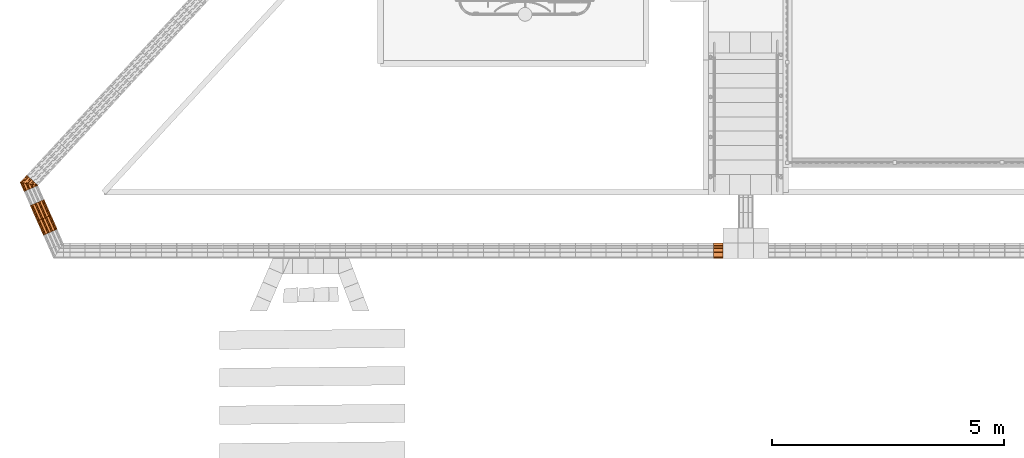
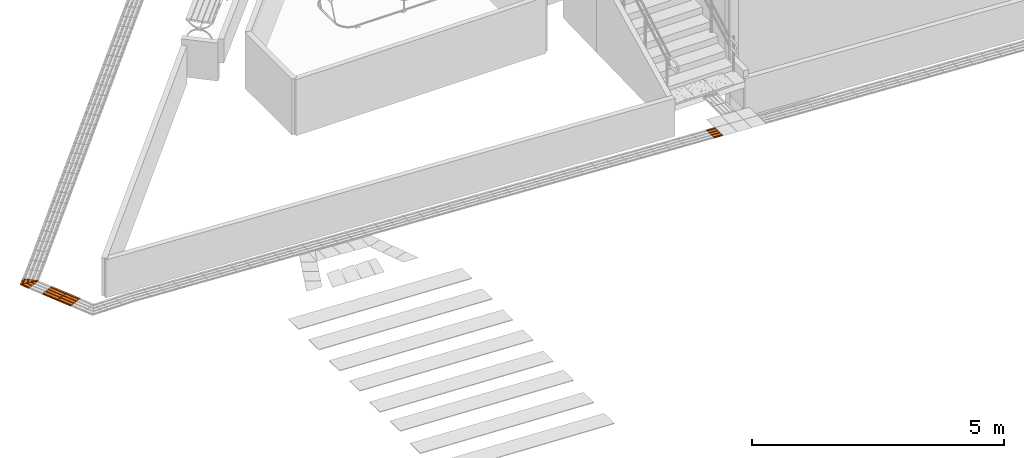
# One storey, part 216 of 237: 5 proxies.
"""IFC2X3 building model written with IfcOpenShell, lengths in millimetres."""

from ifc_helpers import new_model, entity, si_unit, converted_unit, derived_unit, money_unit, direction, frame, origin_with_axes, place, context, subcontext, project, spatial, open_shell, faceted_brep, surface_model, type_object, element, save


model = new_model("IFC2X3")

# Units and contexts
model_context = context("Model", 3, precision=0.01, world=origin_with_axes(), true_north=direction((0.0, 1.0)))
body_context = subcontext(model_context, "Body", "Model", "MODEL_VIEW")
ifc_project = project(units=[si_unit("LENGTHUNIT", "METRE", prefix="MILLI"), si_unit("AREAUNIT", "SQUARE_METRE"), si_unit("VOLUMEUNIT", "CUBIC_METRE"), converted_unit("PLANEANGLEUNIT", "DEGREE", entity("IfcPlaneAngleMeasure", 0.0174532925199), si_unit("PLANEANGLEUNIT", "RADIAN"), dimensions=[0, 0, 0, 0, 0, 0, 0]), money_unit("USD"), converted_unit("TIMEUNIT", "Year", entity("IfcTimeMeasure", 31556926.0), si_unit("TIMEUNIT", "SECOND"), dimensions=[0, 0, 1, 0, 0, 0, 0]), si_unit("MASSUNIT", "GRAM", prefix="KILO"), si_unit("THERMODYNAMICTEMPERATUREUNIT", "DEGREE_CELSIUS"), si_unit("LUMINOUSINTENSITYUNIT", "LUMEN"), si_unit("ENERGYUNIT", "JOULE", prefix="MEGA"), derived_unit("THERMALCONDUCTANCEUNIT", [(si_unit("POWERUNIT", "WATT"), 1), (si_unit("LENGTHUNIT", "METRE"), -1), (si_unit("THERMODYNAMICTEMPERATUREUNIT", "KELVIN"), -1)]), derived_unit("SPECIFICHEATCAPACITYUNIT", [(si_unit("ENERGYUNIT", "JOULE"), 1), (si_unit("MASSUNIT", "GRAM", prefix="KILO"), -1), (si_unit("THERMODYNAMICTEMPERATUREUNIT", "KELVIN"), -1)]), derived_unit("MASSDENSITYUNIT", [(si_unit("MASSUNIT", "GRAM", prefix="KILO"), 1), (si_unit("VOLUMEUNIT", "CUBIC_METRE"), -1)])], contexts=[model_context])

# Site, building, storey
site_placement = place(None, origin_with_axes())
site = spatial("IfcSite", under=ifc_project, at=site_placement, Name="Local", CompositionType="ELEMENT")
building_placement = place(site_placement, origin_with_axes())
building = spatial("IfcBuilding", under=site, at=building_placement, Name="Construção", CompositionType="ELEMENT")
storey_placement = place(building_placement, origin_with_axes())
storey = spatial("IfcBuildingStorey", under=building, at=storey_placement, Name="Pavimento Térreo", CompositionType="ELEMENT", Elevation=0.0)

# Proxies
building_element_proxy_type_1 = type_object("IfcBuildingElementProxyType", Name="Piso Direcional 27", PredefinedType="NOTDEFINED")
proxy_1_placement = place(storey_placement, frame((26239.7793685, 11529.8847147, -2385.08199458), z_axis=(0.0, 0.0, 1.0), x_axis=(-0.40058928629, 0.916257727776, 0.0)))
element("IfcBuildingElementProxy", 1, at=proxy_1_placement, inside=storey, type_object=building_element_proxy_type_1, Name="Objeto-0055", context=body_context, shape_type="SurfaceModel", body=[
    surface_model("IfcShellBasedSurfaceModel", [(0.0, -47.2583560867, 4.02852049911), (370.944327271, -47.2583560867, 4.02852049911), (370.944327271, -41.6651202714, 10.6951871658), (0.0, -41.6651202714, 10.6951871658)], [open_shell([[[0, 1, 2, 3]]])]),
    surface_model("IfcShellBasedSurfaceModel", [(370.944327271, -153.529836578, -9.30481283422), (370.944327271, 176.471076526, -9.30481283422), (370.944327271, 176.471076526, 4.02852049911), (370.944327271, 154.098133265, 4.02852049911), (370.944327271, 148.50489745, 10.6951871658), (370.944327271, 126.131954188, 10.6951871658), (370.944327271, 120.538718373, 4.02852049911), (370.944327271, 70.1995960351, 4.02852049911), (370.944327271, 64.6063602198, 10.6951871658), (370.944327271, 42.2334169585, 10.6951871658), (370.944327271, 36.6401811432, 4.02852049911), (370.944327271, -13.6989411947, 4.02852049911), (370.944327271, -19.2921770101, 10.6951871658), (370.944327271, -41.6651202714, 10.6951871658), (370.944327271, -47.2583560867, 4.02852049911), (370.944327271, -97.5974784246, 4.02852049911), (370.944327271, -103.19071424, 10.6951871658), (370.944327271, -125.563657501, 10.6951871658), (370.944327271, -131.156893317, 4.02852049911), (370.944327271, -153.529836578, 4.02852049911)], [open_shell([[[0, 1, 2, 3, 4, 5, 6, 7, 8, 9, 10, 11, 12, 13, 14, 15, 16, 17, 18, 19]]])]),
    surface_model("IfcShellBasedSurfaceModel", [(0.0, -19.2921770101, 10.6951871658), (370.944327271, -19.2921770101, 10.6951871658), (370.944327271, -13.6989411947, 4.02852049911), (0.0, -13.6989411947, 4.02852049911)], [open_shell([[[0, 1, 2, 3]]])]),
    surface_model("IfcShellBasedSurfaceModel", [(0.0, -103.19071424, 10.6951871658), (370.944327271, -103.19071424, 10.6951871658), (370.944327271, -97.5974784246, 4.02852049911), (0.0, -97.5974784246, 4.02852049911)], [open_shell([[[0, 1, 2, 3]]])]),
    surface_model("IfcShellBasedSurfaceModel", [(0.0, 64.6063602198, 10.6951871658), (370.944327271, 64.6063602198, 10.6951871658), (370.944327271, 70.1995960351, 4.02852049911), (0.0, 70.1995960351, 4.02852049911)], [open_shell([[[0, 1, 2, 3]]])]),
    surface_model("IfcShellBasedSurfaceModel", [(0.0, 36.6401811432, 4.02852049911), (370.944327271, 36.6401811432, 4.02852049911), (370.944327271, 42.2334169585, 10.6951871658), (0.0, 42.2334169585, 10.6951871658)], [open_shell([[[0, 1, 2, 3]]])]),
    surface_model("IfcShellBasedSurfaceModel", [(0.0, -131.156893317, 4.02852049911), (370.944327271, -131.156893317, 4.02852049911), (370.944327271, -125.563657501, 10.6951871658), (0.0, -125.563657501, 10.6951871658)], [open_shell([[[0, 1, 2, 3]]])]),
    surface_model("IfcShellBasedSurfaceModel", [(0.0, 176.471076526, 4.02852049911), (0.0, 154.098133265, 4.02852049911), (370.944327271, 154.098133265, 4.02852049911), (370.944327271, 176.471076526, 4.02852049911)], [open_shell([[[0, 1, 2, 3]]])]),
    surface_model("IfcShellBasedSurfaceModel", [(0.0, 120.538718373, 4.02852049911), (370.944327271, 120.538718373, 4.02852049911), (370.944327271, 126.131954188, 10.6951871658), (0.0, 126.131954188, 10.6951871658)], [open_shell([[[0, 1, 2, 3]]])]),
    surface_model("IfcShellBasedSurfaceModel", [(0.0, 148.50489745, 10.6951871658), (370.944327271, 148.50489745, 10.6951871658), (370.944327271, 154.098133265, 4.02852049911), (0.0, 154.098133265, 4.02852049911)], [open_shell([[[0, 1, 2, 3]]])]),
    surface_model("IfcShellBasedSurfaceModel", [(0.0, 36.6401811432, 4.02852049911), (0.0, -13.6989411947, 4.02852049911), (370.944327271, -13.6989411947, 4.02852049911), (370.944327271, 36.6401811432, 4.02852049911)], [open_shell([[[0, 1, 2, 3]]])]),
    surface_model("IfcShellBasedSurfaceModel", [(0.0, 120.538718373, 4.02852049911), (0.0, 70.1995960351, 4.02852049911), (370.944327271, 70.1995960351, 4.02852049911), (370.944327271, 120.538718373, 4.02852049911)], [open_shell([[[0, 1, 2, 3]]])]),
    surface_model("IfcShellBasedSurfaceModel", [(0.0, 148.50489745, 10.6951871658), (0.0, 126.131954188, 10.6951871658), (370.944327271, 126.131954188, 10.6951871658), (370.944327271, 148.50489745, 10.6951871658)], [open_shell([[[0, 1, 2, 3]]])]),
    surface_model("IfcShellBasedSurfaceModel", [(0.0, 120.538718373, 4.02852049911), (0.0, 126.131954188, 10.6951871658), (0.0, 148.50489745, 10.6951871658), (0.0, 154.098133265, 4.02852049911), (0.0, 176.471076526, 4.02852049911), (0.0, 176.471076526, -9.30481283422), (0.0, -153.529836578, -9.30481283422), (0.0, -153.529836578, 4.02852049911), (0.0, -131.156893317, 4.02852049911), (0.0, -125.563657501, 10.6951871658), (0.0, -103.19071424, 10.6951871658), (0.0, -97.5974784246, 4.02852049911), (0.0, -47.2583560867, 4.02852049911), (0.0, -41.6651202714, 10.6951871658), (0.0, -19.2921770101, 10.6951871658), (0.0, -13.6989411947, 4.02852049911), (0.0, 36.6401811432, 4.02852049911), (0.0, 42.2334169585, 10.6951871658), (0.0, 64.6063602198, 10.6951871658), (0.0, 70.1995960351, 4.02852049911)], [open_shell([[[0, 1, 2, 3, 4, 5, 6, 7, 8, 9, 10, 11, 12, 13, 14, 15, 16, 17, 18, 19]]])]),
    surface_model("IfcShellBasedSurfaceModel", [(370.944327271, -41.6651202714, 10.6951871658), (370.944327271, -19.2921770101, 10.6951871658), (0.0, -19.2921770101, 10.6951871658), (0.0, -41.6651202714, 10.6951871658)], [open_shell([[[0, 1, 2, 3]]])]),
    surface_model("IfcShellBasedSurfaceModel", [(0.0, -47.2583560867, 4.02852049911), (0.0, -97.5974784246, 4.02852049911), (370.944327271, -97.5974784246, 4.02852049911), (370.944327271, -47.2583560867, 4.02852049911)], [open_shell([[[0, 1, 2, 3]]])]),
    surface_model("IfcShellBasedSurfaceModel", [(370.944327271, 42.2334169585, 10.6951871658), (370.944327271, 64.6063602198, 10.6951871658), (0.0, 64.6063602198, 10.6951871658), (0.0, 42.2334169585, 10.6951871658)], [open_shell([[[0, 1, 2, 3]]])]),
    surface_model("IfcShellBasedSurfaceModel", [(370.944327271, -125.563657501, 10.6951871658), (370.944327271, -103.19071424, 10.6951871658), (0.0, -103.19071424, 10.6951871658), (0.0, -125.563657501, 10.6951871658)], [open_shell([[[0, 1, 2, 3]]])]),
    surface_model("IfcShellBasedSurfaceModel", [(370.944327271, 176.471076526, -9.30481283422), (0.0, 176.471076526, -9.30481283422), (0.0, 176.471076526, 4.02852049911), (370.944327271, 176.471076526, 4.02852049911)], [open_shell([[[0, 1, 2, 3]]])]),
    surface_model("IfcShellBasedSurfaceModel", [(370.944327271, -153.529836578, -9.30481283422), (0.0, -153.529836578, -9.30481283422), (0.0, 176.471076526, -9.30481283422), (370.944327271, 176.471076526, -9.30481283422)], [open_shell([[[0, 1, 2, 3]]])]),
    surface_model("IfcShellBasedSurfaceModel", [(370.944327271, -153.529836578, 4.02852049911), (370.944327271, -131.156893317, 4.02852049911), (0.0, -131.156893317, 4.02852049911), (0.0, -153.529836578, 4.02852049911)], [open_shell([[[0, 1, 2, 3]]])]),
    surface_model("IfcShellBasedSurfaceModel", [(0.0, -153.529836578, -9.30481283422), (370.944327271, -153.529836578, -9.30481283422), (370.944327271, -153.529836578, 4.02852049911), (0.0, -153.529836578, 4.02852049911)], [open_shell([[[0, 1, 2, 3]]])]),
])
proxy_2_placement = place(storey_placement, frame((26373.5318277, 11228.2070488, -2385.08199458), z_axis=(0.0, 0.0, 1.0), x_axis=(-0.40058928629, 0.916257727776, 0.0)))
element("IfcBuildingElementProxy", 2, at=proxy_2_placement, inside=storey, type_object=building_element_proxy_type_1, Name="Objeto-0055", context=body_context, shape_type="SurfaceModel", body=[
    surface_model("IfcShellBasedSurfaceModel", [(0.0, -47.4807003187, 4.02852049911), (330.0, -47.4807003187, 4.02852049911), (330.0, -41.8611490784, 10.6951871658), (0.0, -41.8611490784, 10.6951871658)], [open_shell([[[0, 1, 2, 3]]])]),
    surface_model("IfcShellBasedSurfaceModel", [(330.0, -154.252173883, -9.30481283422), (330.0, 177.301349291, -9.30481283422), (330.0, 177.301349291, 4.02852049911), (330.0, 154.82314433, 4.02852049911), (330.0, 149.20359309, 10.6951871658), (330.0, 126.725388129, 10.6951871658), (330.0, 121.105836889, 4.02852049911), (330.0, 70.5298757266, 4.02852049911), (330.0, 64.9103244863, 10.6951871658), (330.0, 42.4321195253, 10.6951871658), (330.0, 36.8125682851, 4.02852049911), (330.0, -13.7633928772, 4.02852049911), (330.0, -19.3829441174, 10.6951871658), (330.0, -41.8611490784, 10.6951871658), (330.0, -47.4807003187, 4.02852049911), (330.0, -98.0566614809, 4.02852049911), (330.0, -103.676212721, 10.6951871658), (330.0, -126.154417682, 10.6951871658), (330.0, -131.773968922, 4.02852049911), (330.0, -154.252173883, 4.02852049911)], [open_shell([[[0, 1, 2, 3, 4, 5, 6, 7, 8, 9, 10, 11, 12, 13, 14, 15, 16, 17, 18, 19]]])]),
    surface_model("IfcShellBasedSurfaceModel", [(0.0, -19.3829441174, 10.6951871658), (330.0, -19.3829441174, 10.6951871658), (330.0, -13.7633928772, 4.02852049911), (0.0, -13.7633928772, 4.02852049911)], [open_shell([[[0, 1, 2, 3]]])]),
    surface_model("IfcShellBasedSurfaceModel", [(0.0, -103.676212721, 10.6951871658), (330.0, -103.676212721, 10.6951871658), (330.0, -98.0566614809, 4.02852049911), (0.0, -98.0566614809, 4.02852049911)], [open_shell([[[0, 1, 2, 3]]])]),
    surface_model("IfcShellBasedSurfaceModel", [(0.0, 64.9103244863, 10.6951871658), (330.0, 64.9103244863, 10.6951871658), (330.0, 70.5298757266, 4.02852049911), (0.0, 70.5298757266, 4.02852049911)], [open_shell([[[0, 1, 2, 3]]])]),
    surface_model("IfcShellBasedSurfaceModel", [(0.0, 36.8125682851, 4.02852049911), (330.0, 36.8125682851, 4.02852049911), (330.0, 42.4321195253, 10.6951871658), (0.0, 42.4321195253, 10.6951871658)], [open_shell([[[0, 1, 2, 3]]])]),
    surface_model("IfcShellBasedSurfaceModel", [(0.0, -131.773968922, 4.02852049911), (330.0, -131.773968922, 4.02852049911), (330.0, -126.154417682, 10.6951871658), (0.0, -126.154417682, 10.6951871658)], [open_shell([[[0, 1, 2, 3]]])]),
    surface_model("IfcShellBasedSurfaceModel", [(0.0, 177.301349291, 4.02852049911), (0.0, 154.82314433, 4.02852049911), (330.0, 154.82314433, 4.02852049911), (330.0, 177.301349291, 4.02852049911)], [open_shell([[[0, 1, 2, 3]]])]),
    surface_model("IfcShellBasedSurfaceModel", [(0.0, 121.105836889, 4.02852049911), (330.0, 121.105836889, 4.02852049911), (330.0, 126.725388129, 10.6951871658), (0.0, 126.725388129, 10.6951871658)], [open_shell([[[0, 1, 2, 3]]])]),
    surface_model("IfcShellBasedSurfaceModel", [(0.0, 149.20359309, 10.6951871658), (330.0, 149.20359309, 10.6951871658), (330.0, 154.82314433, 4.02852049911), (0.0, 154.82314433, 4.02852049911)], [open_shell([[[0, 1, 2, 3]]])]),
    surface_model("IfcShellBasedSurfaceModel", [(0.0, 36.8125682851, 4.02852049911), (0.0, -13.7633928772, 4.02852049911), (330.0, -13.7633928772, 4.02852049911), (330.0, 36.8125682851, 4.02852049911)], [open_shell([[[0, 1, 2, 3]]])]),
    surface_model("IfcShellBasedSurfaceModel", [(0.0, 121.105836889, 4.02852049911), (0.0, 70.5298757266, 4.02852049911), (330.0, 70.5298757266, 4.02852049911), (330.0, 121.105836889, 4.02852049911)], [open_shell([[[0, 1, 2, 3]]])]),
    surface_model("IfcShellBasedSurfaceModel", [(0.0, 149.20359309, 10.6951871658), (0.0, 126.725388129, 10.6951871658), (330.0, 126.725388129, 10.6951871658), (330.0, 149.20359309, 10.6951871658)], [open_shell([[[0, 1, 2, 3]]])]),
    surface_model("IfcShellBasedSurfaceModel", [(0.0, 121.105836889, 4.02852049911), (0.0, 126.725388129, 10.6951871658), (0.0, 149.20359309, 10.6951871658), (0.0, 154.82314433, 4.02852049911), (0.0, 177.301349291, 4.02852049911), (0.0, 177.301349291, -9.30481283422), (0.0, -154.252173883, -9.30481283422), (0.0, -154.252173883, 4.02852049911), (0.0, -131.773968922, 4.02852049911), (0.0, -126.154417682, 10.6951871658), (0.0, -103.676212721, 10.6951871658), (0.0, -98.0566614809, 4.02852049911), (0.0, -47.4807003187, 4.02852049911), (0.0, -41.8611490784, 10.6951871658), (0.0, -19.3829441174, 10.6951871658), (0.0, -13.7633928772, 4.02852049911), (0.0, 36.8125682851, 4.02852049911), (0.0, 42.4321195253, 10.6951871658), (0.0, 64.9103244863, 10.6951871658), (0.0, 70.5298757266, 4.02852049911)], [open_shell([[[0, 1, 2, 3, 4, 5, 6, 7, 8, 9, 10, 11, 12, 13, 14, 15, 16, 17, 18, 19]]])]),
    surface_model("IfcShellBasedSurfaceModel", [(330.0, -41.8611490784, 10.6951871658), (330.0, -19.3829441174, 10.6951871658), (0.0, -19.3829441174, 10.6951871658), (0.0, -41.8611490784, 10.6951871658)], [open_shell([[[0, 1, 2, 3]]])]),
    surface_model("IfcShellBasedSurfaceModel", [(0.0, -47.4807003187, 4.02852049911), (0.0, -98.0566614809, 4.02852049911), (330.0, -98.0566614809, 4.02852049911), (330.0, -47.4807003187, 4.02852049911)], [open_shell([[[0, 1, 2, 3]]])]),
    surface_model("IfcShellBasedSurfaceModel", [(330.0, 42.4321195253, 10.6951871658), (330.0, 64.9103244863, 10.6951871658), (0.0, 64.9103244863, 10.6951871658), (0.0, 42.4321195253, 10.6951871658)], [open_shell([[[0, 1, 2, 3]]])]),
    surface_model("IfcShellBasedSurfaceModel", [(330.0, -126.154417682, 10.6951871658), (330.0, -103.676212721, 10.6951871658), (0.0, -103.676212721, 10.6951871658), (0.0, -126.154417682, 10.6951871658)], [open_shell([[[0, 1, 2, 3]]])]),
    surface_model("IfcShellBasedSurfaceModel", [(330.0, 177.301349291, -9.30481283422), (0.0, 177.301349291, -9.30481283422), (0.0, 177.301349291, 4.02852049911), (330.0, 177.301349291, 4.02852049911)], [open_shell([[[0, 1, 2, 3]]])]),
    surface_model("IfcShellBasedSurfaceModel", [(330.0, -154.252173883, -9.30481283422), (0.0, -154.252173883, -9.30481283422), (0.0, 177.301349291, -9.30481283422), (330.0, 177.301349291, -9.30481283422)], [open_shell([[[0, 1, 2, 3]]])]),
    surface_model("IfcShellBasedSurfaceModel", [(330.0, -154.252173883, 4.02852049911), (330.0, -131.773968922, 4.02852049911), (0.0, -131.773968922, 4.02852049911), (0.0, -154.252173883, 4.02852049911)], [open_shell([[[0, 1, 2, 3]]])]),
    surface_model("IfcShellBasedSurfaceModel", [(0.0, -154.252173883, -9.30481283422), (330.0, -154.252173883, -9.30481283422), (330.0, -154.252173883, 4.02852049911), (0.0, -154.252173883, 4.02852049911)], [open_shell([[[0, 1, 2, 3]]])]),
])
proxy_3_placement = place(storey_placement, frame((40867.7766385, 10834.0941893, -3084.29713012), z_axis=(0.0, 0.0, 1.0), x_axis=(-1.0, 0.0, 0.0)))
element("IfcBuildingElementProxy", 3, at=proxy_3_placement, inside=storey, type_object=building_element_proxy_type_1, Name="Objeto-0055", context=body_context, shape_type="SurfaceModel", body=[
    surface_model("IfcShellBasedSurfaceModel", [(-0.196792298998, -47.258225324, 4.02371099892), (200.53801592, -47.258225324, 13.8412810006), (200.212350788, -41.665004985, 20.4999885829), (-0.522457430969, -41.665004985, 10.6824185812)], [open_shell([[[0, 1, 2, 3]]])]),
    surface_model("IfcShellBasedSurfaceModel", [(201.189346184, -153.529411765, 0.523865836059), (201.189346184, 176.470588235, 0.523865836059), (200.53801592, 176.470588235, 13.8412810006), (200.53801592, 154.097706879, 13.8412810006), (200.212350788, 148.50448654, 20.4999885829), (200.212350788, 126.131605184, 20.4999885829), (200.53801592, 120.538384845, 13.8412810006), (200.53801592, 70.1994017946, 13.8412810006), (200.212350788, 64.6061814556, 20.4999885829), (200.212350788, 42.2333000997, 20.4999885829), (200.53801592, 36.6400797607, 13.8412810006), (200.53801592, -13.6989032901, 13.8412810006), (200.212350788, -19.2921236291, 20.4999885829), (200.212350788, -41.665004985, 20.4999885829), (200.53801592, -47.258225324, 13.8412810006), (200.53801592, -97.5972083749, 13.8412810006), (200.212350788, -103.190428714, 20.4999885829), (200.212350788, -125.56331007, 20.4999885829), (200.53801592, -131.156530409, 13.8412810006), (200.53801592, -153.529411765, 13.8412810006)], [open_shell([[[0, 1, 2, 3, 4, 5, 6, 7, 8, 9, 10, 11, 12, 13, 14, 15, 16, 17, 18, 19]]])]),
    surface_model("IfcShellBasedSurfaceModel", [(-0.522457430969, -19.2921236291, 10.6824185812), (200.212350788, -19.2921236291, 20.4999885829), (200.53801592, -13.6989032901, 13.8412810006), (-0.196792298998, -13.6989032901, 4.02371099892)], [open_shell([[[0, 1, 2, 3]]])]),
    surface_model("IfcShellBasedSurfaceModel", [(-0.522457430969, -103.190428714, 10.6824185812), (200.212350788, -103.190428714, 20.4999885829), (200.53801592, -97.5972083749, 13.8412810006), (-0.196792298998, -97.5972083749, 4.02371099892)], [open_shell([[[0, 1, 2, 3]]])]),
    surface_model("IfcShellBasedSurfaceModel", [(-0.522457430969, 64.6061814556, 10.6824185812), (200.212350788, 64.6061814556, 20.4999885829), (200.53801592, 70.1994017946, 13.8412810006), (-0.196792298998, 70.1994017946, 4.02371099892)], [open_shell([[[0, 1, 2, 3]]])]),
    surface_model("IfcShellBasedSurfaceModel", [(-0.196792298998, 36.6400797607, 4.02371099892), (200.53801592, 36.6400797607, 13.8412810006), (200.212350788, 42.2333000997, 20.4999885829), (-0.522457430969, 42.2333000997, 10.6824185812)], [open_shell([[[0, 1, 2, 3]]])]),
    surface_model("IfcShellBasedSurfaceModel", [(-0.196792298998, -131.156530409, 4.02371099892), (200.53801592, -131.156530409, 13.8412810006), (200.212350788, -125.56331007, 20.4999885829), (-0.522457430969, -125.56331007, 10.6824185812)], [open_shell([[[0, 1, 2, 3]]])]),
    surface_model("IfcShellBasedSurfaceModel", [(-0.196792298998, 176.470588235, 4.02371099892), (-0.196792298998, 154.097706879, 4.02371099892), (200.53801592, 154.097706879, 13.8412810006), (200.53801592, 176.470588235, 13.8412810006)], [open_shell([[[0, 1, 2, 3]]])]),
    surface_model("IfcShellBasedSurfaceModel", [(-0.196792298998, 120.538384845, 4.02371099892), (200.53801592, 120.538384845, 13.8412810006), (200.212350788, 126.131605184, 20.4999885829), (-0.522457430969, 126.131605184, 10.6824185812)], [open_shell([[[0, 1, 2, 3]]])]),
    surface_model("IfcShellBasedSurfaceModel", [(-0.522457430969, 148.50448654, 10.6824185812), (200.212350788, 148.50448654, 20.4999885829), (200.53801592, 154.097706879, 13.8412810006), (-0.196792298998, 154.097706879, 4.02371099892)], [open_shell([[[0, 1, 2, 3]]])]),
    surface_model("IfcShellBasedSurfaceModel", [(-0.196792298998, 36.6400797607, 4.02371099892), (-0.196792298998, -13.6989032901, 4.02371099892), (200.53801592, -13.6989032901, 13.8412810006), (200.53801592, 36.6400797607, 13.8412810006)], [open_shell([[[0, 1, 2, 3]]])]),
    surface_model("IfcShellBasedSurfaceModel", [(-0.196792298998, 120.538384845, 4.02371099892), (-0.196792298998, 70.1994017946, 4.02371099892), (200.53801592, 70.1994017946, 13.8412810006), (200.53801592, 120.538384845, 13.8412810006)], [open_shell([[[0, 1, 2, 3]]])]),
    surface_model("IfcShellBasedSurfaceModel", [(-0.522457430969, 148.50448654, 10.6824185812), (-0.522457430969, 126.131605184, 10.6824185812), (200.212350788, 126.131605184, 20.4999885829), (200.212350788, 148.50448654, 20.4999885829)], [open_shell([[[0, 1, 2, 3]]])]),
    surface_model("IfcShellBasedSurfaceModel", [(-0.196792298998, 120.538384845, 4.02371099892), (-0.522457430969, 126.131605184, 10.6824185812), (-0.522457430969, 148.50448654, 10.6824185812), (-0.196792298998, 154.097706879, 4.02371099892), (-0.196792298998, 176.470588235, 4.02371099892), (0.454537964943, 176.470588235, -9.29370416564), (0.454537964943, -153.529411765, -9.29370416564), (-0.196792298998, -153.529411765, 4.02371099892), (-0.196792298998, -131.156530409, 4.02371099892), (-0.522457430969, -125.56331007, 10.6824185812), (-0.522457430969, -103.190428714, 10.6824185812), (-0.196792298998, -97.5972083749, 4.02371099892), (-0.196792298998, -47.258225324, 4.02371099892), (-0.522457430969, -41.665004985, 10.6824185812), (-0.522457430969, -19.2921236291, 10.6824185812), (-0.196792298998, -13.6989032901, 4.02371099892), (-0.196792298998, 36.6400797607, 4.02371099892), (-0.522457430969, 42.2333000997, 10.6824185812), (-0.522457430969, 64.6061814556, 10.6824185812), (-0.196792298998, 70.1994017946, 4.02371099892)], [open_shell([[[0, 1, 2, 3, 4, 5, 6, 7, 8, 9, 10, 11, 12, 13, 14, 15, 16, 17, 18, 19]]])]),
    surface_model("IfcShellBasedSurfaceModel", [(200.212350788, -41.665004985, 20.4999885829), (200.212350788, -19.2921236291, 20.4999885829), (-0.522457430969, -19.2921236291, 10.6824185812), (-0.522457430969, -41.665004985, 10.6824185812)], [open_shell([[[0, 1, 2, 3]]])]),
    surface_model("IfcShellBasedSurfaceModel", [(-0.196792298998, -47.258225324, 4.02371099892), (-0.196792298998, -97.5972083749, 4.02371099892), (200.53801592, -97.5972083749, 13.8412810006), (200.53801592, -47.258225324, 13.8412810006)], [open_shell([[[0, 1, 2, 3]]])]),
    surface_model("IfcShellBasedSurfaceModel", [(200.212350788, 42.2333000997, 20.4999885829), (200.212350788, 64.6061814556, 20.4999885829), (-0.522457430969, 64.6061814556, 10.6824185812), (-0.522457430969, 42.2333000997, 10.6824185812)], [open_shell([[[0, 1, 2, 3]]])]),
    surface_model("IfcShellBasedSurfaceModel", [(200.212350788, -125.56331007, 20.4999885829), (200.212350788, -103.190428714, 20.4999885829), (-0.522457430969, -103.190428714, 10.6824185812), (-0.522457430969, -125.56331007, 10.6824185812)], [open_shell([[[0, 1, 2, 3]]])]),
    surface_model("IfcShellBasedSurfaceModel", [(201.189346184, 176.470588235, 0.523865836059), (0.454537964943, 176.470588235, -9.29370416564), (-0.196792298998, 176.470588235, 4.02371099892), (200.53801592, 176.470588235, 13.8412810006)], [open_shell([[[0, 1, 2, 3]]])]),
    surface_model("IfcShellBasedSurfaceModel", [(201.189346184, -153.529411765, 0.523865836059), (0.454537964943, -153.529411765, -9.29370416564), (0.454537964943, 176.470588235, -9.29370416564), (201.189346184, 176.470588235, 0.523865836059)], [open_shell([[[0, 1, 2, 3]]])]),
    surface_model("IfcShellBasedSurfaceModel", [(200.53801592, -153.529411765, 13.8412810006), (200.53801592, -131.156530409, 13.8412810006), (-0.196792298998, -131.156530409, 4.02371099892), (-0.196792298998, -153.529411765, 4.02371099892)], [open_shell([[[0, 1, 2, 3]]])]),
    surface_model("IfcShellBasedSurfaceModel", [(0.454537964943, -153.529411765, -9.29370416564), (201.189346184, -153.529411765, 0.523865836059), (200.53801592, -153.529411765, 13.8412810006), (-0.196792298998, -153.529411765, 4.02371099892)], [open_shell([[[0, 1, 2, 3]]])]),
])
building_element_proxy_type_2 = type_object("IfcBuildingElementProxyType", Name="FALTA", PredefinedType="NOTDEFINED")
proxy_4_placement = place(storey_placement, frame((25958.0637513, 12171.7201396, -2387.51378248), z_axis=(0.0, 0.0, 1.0), x_axis=(-0.40058928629, 0.916257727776, 0.0)))
element("IfcBuildingElementProxy", 4, at=proxy_4_placement, inside=storey, type_object=building_element_proxy_type_2, Name="Objeto-0055", context=body_context, shape_type="Brep", body=[
    faceted_brep([(14.5835434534, -131.35801066, 4.74659001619), (-0.196792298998, -131.35801066, 4.02371099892), (-0.196792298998, -153.765260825, 4.02371099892), (2.68499111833e-09, -153.765260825, 4.03333574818), (18.229429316, -125.756198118, 11.5995388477), (-0.522457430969, -125.756198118, 10.6824185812), (2.68500499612e-09, -153.765260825, -5.48987643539e-08), (-0.522457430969, -103.348947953, 10.6824185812), (-0.196792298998, -97.7471354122, 4.02371099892), (-0.196792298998, -47.330822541, 4.02371099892), (-0.522457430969, -41.7290099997, 10.6824185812), (-0.522457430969, -19.3217598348, 10.6824185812), (-0.196792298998, -13.7199472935, 4.02371099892), (-0.196792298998, 36.6963655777, 4.02371099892), (-0.522457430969, 42.2981781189, 10.6824185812), (-0.522457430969, 64.7054282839, 10.6824185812), (-0.196792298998, 70.3072408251, 4.02371099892), (-0.196792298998, 120.723553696, 4.02371099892), (-0.522457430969, 126.325366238, 10.6824185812), (-0.522457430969, 148.732616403, 10.6824185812), (-0.196792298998, 154.334428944, 4.02371099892), (-0.196792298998, 176.741679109, 4.02371099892), (0.454537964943, 176.741679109, -9.29370416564), (0.454537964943, -153.066874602, -9.29370416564), (215.1072659, 176.741679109, 1.20456567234), (215.1072659, 176.741679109, 5.25710834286), (214.653665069, 176.044732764, 14.5316514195), (200.523722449, 154.334428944, 13.8405819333), (196.877836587, 148.732616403, 20.3369036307), (182.294293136, 126.325366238, 19.6236493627), (178.648407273, 120.723553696, 12.7707005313), (145.835434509, 70.3072408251, 11.1658784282), (142.189548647, 64.7054282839, 17.6622001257), (127.606005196, 42.2981781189, 16.9489458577), (123.960119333, 36.6963655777, 10.0959970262), (91.1471465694, -13.7199472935, 8.49117492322), (87.5012607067, -19.3217598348, 14.9874966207), (72.9177172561, -41.7290099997, 14.2742423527), (69.2718313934, -47.330822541, 7.42129352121), (36.4588586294, -97.7471354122, 5.8164714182), (32.8129727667, -103.348947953, 12.3127931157), (214.653665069, 176.741679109, 14.5316514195)], [[[0, 1, 2, 3]], [[1, 0, 4, 5]], [[6, 2, 1, 5, 7, 8, 9, 10, 11, 12, 13, 14, 15, 16, 17, 18, 19, 20, 21, 22, 23]], [[2, 6, 3]], [[6, 23, 24, 25, 26, 27, 28, 29, 30, 31, 32, 33, 34, 35, 36, 37, 38, 39, 40, 4, 0, 3]], [[7, 5, 4, 40]], [[8, 7, 40, 39]], [[8, 39, 38, 9]], [[10, 9, 38, 37]], [[11, 10, 37, 36]], [[12, 11, 36, 35]], [[12, 35, 34, 13]], [[14, 13, 34, 33]], [[15, 14, 33, 32]], [[16, 15, 32, 31]], [[16, 31, 30, 17]], [[18, 17, 30, 29]], [[19, 18, 29, 28]], [[20, 19, 28, 27]], [[21, 20, 27, 26, 41]], [[21, 41, 25, 24, 22]], [[23, 22, 24]], [[41, 26, 25]]]),
])
proxy_5_placement = place(storey_placement, frame((25969.1262194, 12352.8452699, -2387.51378248), z_axis=(0.0, 0.0, 1.0), x_axis=(-0.677327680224, -0.735681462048, 0.0)))
element("IfcBuildingElementProxy", 5, at=proxy_5_placement, inside=storey, type_object=building_element_proxy_type_2, Name="Objeto-0055", context=body_context, shape_type="Brep", body=[
    faceted_brep([(-0.196792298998, 70.1994017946, 4.02371099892), (69.5220196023, 70.1994017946, 7.43352976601), (36.5905366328, 120.538384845, 5.82291154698), (-0.196792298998, 120.538384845, 4.02371099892), (-0.522457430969, 64.6061814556, 10.6824185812), (73.1810732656, 64.6061814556, 14.2871226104), (87.8172879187, 42.2333000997, 15.0029529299), (91.4763415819, 36.6400797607, 8.50727524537), (124.407824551, -13.6989032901, 10.1178934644), (128.066878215, -19.2921236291, 16.9714863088), (142.703092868, -41.665004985, 17.6873166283), (146.362146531, -47.258225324, 11.1916389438), (179.293629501, -97.5972083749, 12.8022571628), (182.952683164, -103.190428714, 19.6558500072), (197.588897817, -125.56331007, 20.3716803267), (201.24795148, -131.156530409, 13.8760026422), (215.42963779, -152.834620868, 14.569602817), (215.884166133, -153.529411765, 5.27609537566), (215.884166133, -153.529411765, 1.2425624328), (0.454537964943, 175.775782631, -9.29370416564), (0.0, 176.470588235, 0.0), (0.0, 176.470588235, 4.03333574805), (14.6362146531, 154.097706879, 4.74916606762), (18.2952683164, 148.50448654, 11.602758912), (32.9314829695, 126.131605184, 12.3185892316), (-0.522457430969, 126.131605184, 10.6824185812), (0.454537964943, -153.529411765, -9.29370416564), (-0.196792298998, -153.529411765, 4.02371099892), (-0.196792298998, -131.156530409, 4.02371099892), (-0.522457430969, -125.56331007, 10.6824185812), (-0.522457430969, -103.190428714, 10.6824185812), (-0.196792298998, -97.5972083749, 4.02371099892), (-0.196792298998, -47.258225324, 4.02371099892), (-0.522457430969, -41.665004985, 10.6824185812), (-0.522457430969, -19.2921236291, 10.6824185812), (-0.196792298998, -13.6989032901, 4.02371099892), (-0.196792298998, 36.6400797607, 4.02371099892), (-0.522457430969, 42.2333000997, 10.6824185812), (-0.522457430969, 148.50448654, 10.6824185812), (-0.196792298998, 154.097706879, 4.02371099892), (-0.196792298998, 176.470588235, 4.02371099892), (215.42963779, -153.529411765, 14.569602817)], [[[0, 1, 2, 3]], [[0, 4, 5, 1]], [[6, 7, 8, 9, 10, 11, 12, 13, 14, 15, 16, 17, 18, 19, 20, 21, 22, 23, 24, 2, 1, 5]], [[25, 3, 2, 24]], [[26, 27, 28, 29, 30, 31, 32, 33, 34, 35, 36, 37, 4, 0, 3, 25, 38, 39, 40, 20, 19]], [[4, 37, 6, 5]], [[37, 36, 7, 6]], [[35, 8, 7, 36]], [[35, 34, 9, 8]], [[34, 33, 10, 9]], [[33, 32, 11, 10]], [[31, 12, 11, 32]], [[31, 30, 13, 12]], [[30, 29, 14, 13]], [[29, 28, 15, 14]], [[15, 28, 27, 41, 16]], [[41, 17, 16]], [[27, 26, 18, 17, 41]], [[26, 19, 18]], [[40, 21, 20]], [[40, 39, 22, 21]], [[39, 38, 23, 22]], [[38, 25, 24, 23]]]),
])

save(model, "model.ifc")
